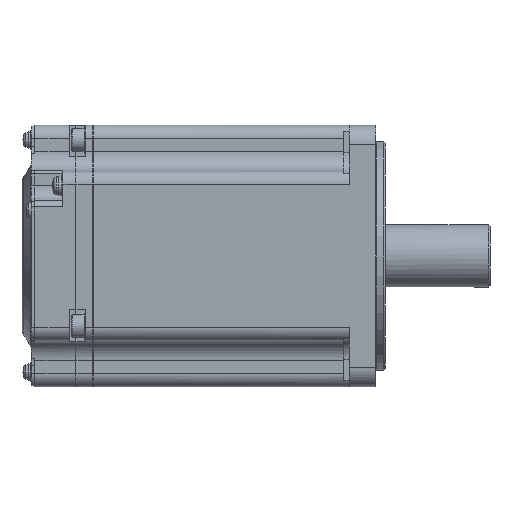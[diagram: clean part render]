
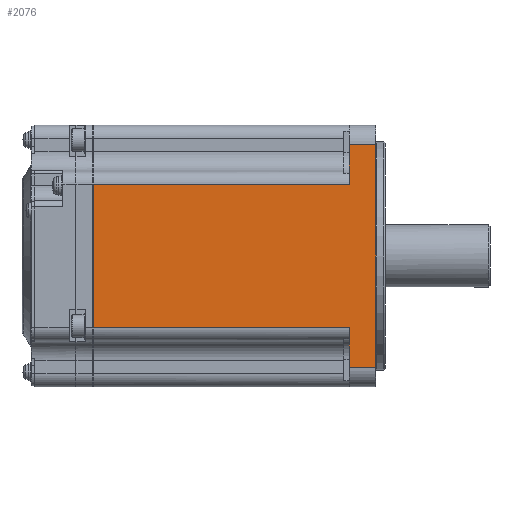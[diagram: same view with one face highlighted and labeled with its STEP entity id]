
A CAD part, front view. The second image highlights one B-rep face of the part: STEP entity #2076.
In plain terms, the highlighted planar face has unit normal (0, -1, 0).
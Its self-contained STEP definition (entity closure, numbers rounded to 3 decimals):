
#2076 = ADVANCED_FACE( '', ( #4444 ), #4445, .T. );
#4444 = FACE_OUTER_BOUND( '', #7076, .T. );
#4445 = PLANE( '', #7077 );
#7076 = EDGE_LOOP( '', ( #12616, #12617, #12618, #12619, #12620, #12621, #12622, #12623 ) );
#7077 = AXIS2_PLACEMENT_3D( '', #12624, #12625, #12626 );
#12616 = ORIENTED_EDGE( '', *, *, #15032, .F. );
#12617 = ORIENTED_EDGE( '', *, *, #16584, .T. );
#12618 = ORIENTED_EDGE( '', *, *, #17144, .F. );
#12619 = ORIENTED_EDGE( '', *, *, #16260, .F. );
#12620 = ORIENTED_EDGE( '', *, *, #16438, .F. );
#12621 = ORIENTED_EDGE( '', *, *, #16733, .T. );
#12622 = ORIENTED_EDGE( '', *, *, #17145, .F. );
#12623 = ORIENTED_EDGE( '', *, *, #15924, .F. );
#12624 = CARTESIAN_POINT( '', ( -91.7, -40., 34. ) );
#12625 = DIRECTION( '', ( 0., -1., 0. ) );
#12626 = DIRECTION( '', ( 0., 0., -1. ) );
#15032 = EDGE_CURVE( '', #17856, #17858, #17859, .T. );
#15924 = EDGE_CURVE( '', #17858, #19361, #19362, .T. );
#16260 = EDGE_CURVE( '', #19883, #19885, #19886, .T. );
#16438 = EDGE_CURVE( '', #20146, #19883, #20148, .T. );
#16584 = EDGE_CURVE( '', #17856, #20358, #20360, .T. );
#16733 = EDGE_CURVE( '', #20146, #20561, #20563, .T. );
#17144 = EDGE_CURVE( '', #19885, #20358, #21107, .T. );
#17145 = EDGE_CURVE( '', #19361, #20561, #21108, .T. );
#17856 = VERTEX_POINT( '', #21982 );
#17858 = VERTEX_POINT( '', #21984 );
#17859 = LINE( '', #21985, #21986 );
#19361 = VERTEX_POINT( '', #24045 );
#19362 = LINE( '', #24046, #24047 );
#19883 = VERTEX_POINT( '', #24773 );
#19885 = VERTEX_POINT( '', #24775 );
#19886 = LINE( '', #24776, #24777 );
#20146 = VERTEX_POINT( '', #25137 );
#20148 = LINE( '', #25139, #25140 );
#20358 = VERTEX_POINT( '', #25430 );
#20360 = LINE( '', #25432, #25433 );
#20561 = VERTEX_POINT( '', #25698 );
#20563 = LINE( '', #25700, #25701 );
#21107 = LINE( '', #26455, #26456 );
#21108 = LINE( '', #26457, #26458 );
#21982 = CARTESIAN_POINT( '', ( -8., -40., 22. ) );
#21984 = CARTESIAN_POINT( '', ( -8., -40., 34. ) );
#21985 = CARTESIAN_POINT( '', ( -8., -40., 34. ) );
#21986 = VECTOR( '', #27287, 1000. );
#24045 = CARTESIAN_POINT( '', ( 0., -40., 34. ) );
#24046 = CARTESIAN_POINT( '', ( -91.7, -40., 34. ) );
#24047 = VECTOR( '', #28355, 1000. );
#24773 = CARTESIAN_POINT( '', ( -8., -40., -22. ) );
#24775 = CARTESIAN_POINT( '', ( -86.4, -40., -22. ) );
#24776 = CARTESIAN_POINT( '', ( -8., -40., -22. ) );
#24777 = VECTOR( '', #28756, 1000. );
#25137 = CARTESIAN_POINT( '', ( -8., -40., -34. ) );
#25139 = CARTESIAN_POINT( '', ( -8., -40., 34. ) );
#25140 = VECTOR( '', #28948, 1000. );
#25430 = CARTESIAN_POINT( '', ( -86.4, -40., 22. ) );
#25432 = CARTESIAN_POINT( '', ( -8., -40., 22. ) );
#25433 = VECTOR( '', #29123, 1000. );
#25698 = CARTESIAN_POINT( '', ( 0., -40., -34. ) );
#25700 = CARTESIAN_POINT( '', ( -91.7, -40., -34. ) );
#25701 = VECTOR( '', #29290, 1000. );
#26455 = CARTESIAN_POINT( '', ( -86.4, -40., 34. ) );
#26456 = VECTOR( '', #29698, 1000. );
#26457 = CARTESIAN_POINT( '', ( 0., -40., 34. ) );
#26458 = VECTOR( '', #29699, 1000. );
#27287 = DIRECTION( '', ( 0., 0., 1. ) );
#28355 = DIRECTION( '', ( 1., 0., 0. ) );
#28756 = DIRECTION( '', ( -1., 0., 0. ) );
#28948 = DIRECTION( '', ( 0., 0., 1. ) );
#29123 = DIRECTION( '', ( -1., 0., 0. ) );
#29290 = DIRECTION( '', ( 1., 0., 0. ) );
#29698 = DIRECTION( '', ( 0., 0., 1. ) );
#29699 = DIRECTION( '', ( 0., 0., -1. ) );
